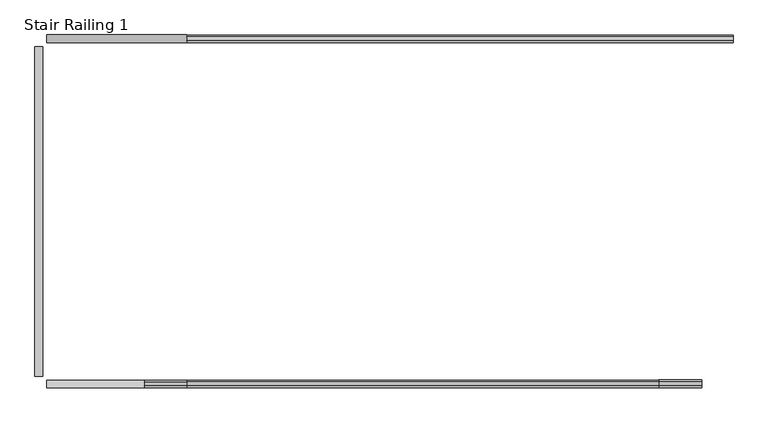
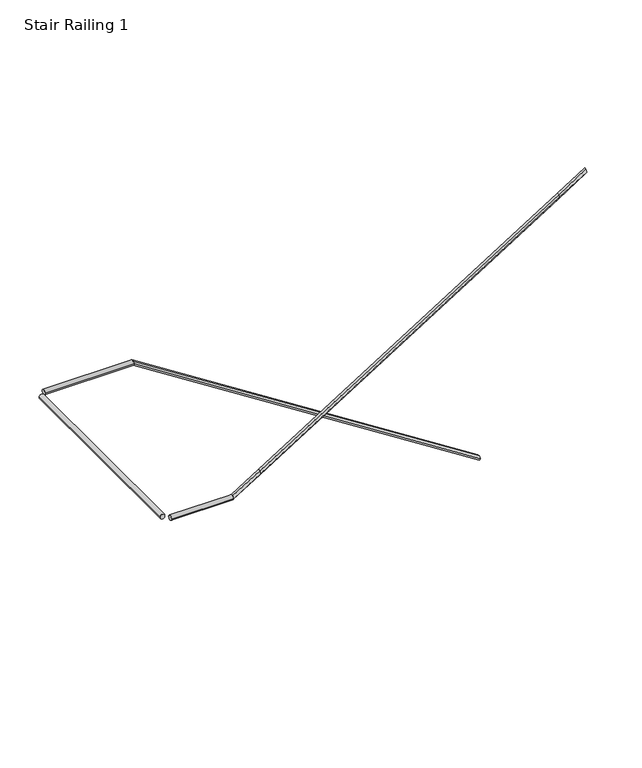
"""IFC4 building model written with IfcOpenShell, lengths in millimetres: railing geometry, Stair Railing 1."""

from ifc_helpers import new_model, si_unit, frame, origin, place, context, project, spatial, circle_curve, faceted_brep, source, transform, mapped, element, save
from ifc_brep_helpers import plane_surface, cylinder_surface, advanced_brep


def stair_railing_1_d57b5f3b(model_context):
    return source(origin(), model_context, "Body", "SolidModel", [
        faceted_brep([(46975.6613811, 47258.2865351, 13752.6888889), (46975.6613811, 47245.5865351, 13730.6918436), (46975.6613811, 47220.1865351, 13730.6918436), (46975.6613811, 47207.4865351, 13752.6888889), (46975.6613811, 47220.1865351, 13774.6859341), (46975.6613811, 47245.5865351, 13774.6859341), (50534.1355635, 47258.2865351, 11477.9777778), (50534.1355635, 47245.5865351, 11499.974823), (50534.1355635, 47220.1865351, 11499.974823), (50534.1355635, 47207.4865351, 11477.9777778), (50534.1355635, 47220.1865351, 11455.9807325), (50534.1355635, 47245.5865351, 11455.9807325)], [[[0, 1, 2, 3, 4, 5]], [[6, 7, 8, 9, 10, 11]], [[1, 0, 6, 11]], [[2, 1, 11, 10]], [[3, 2, 10, 9]], [[4, 3, 9, 8]], [[5, 4, 8, 7]], [[0, 5, 7, 6]]]),
        advanced_brep(
        [(46061.2613811, 47258.2865351, 13752.6888889), (46061.2613811, 47207.4865351, 13752.6888889), (46975.6613811, 47258.2865351, 13752.6888889), (46975.6613811, 47207.4865351, 13752.6888889)],
        [
            (0, 1, circle_curve(frame((46061.2613811, 47232.8865351, 13752.6888889), z_axis=(-1.0, 0.0, 0.0), x_axis=(0.0, 1.0, 0.0)), 25.4)),
            (1, 0, circle_curve(frame((46061.2613811, 47232.8865351, 13752.6888889), z_axis=(-1.0, 0.0, 0.0), x_axis=(0.0, 1.0, 0.0)), 25.4)),
            (2, 3, circle_curve(frame((46975.6613811, 47232.8865351, 13752.6888889), z_axis=(1.0, 0.0, 0.0), x_axis=(0.0, 1.0, 0.0)), 25.4)),
            (3, 2, circle_curve(frame((46975.6613811, 47232.8865351, 13752.6888889), z_axis=(1.0, 0.0, 0.0), x_axis=(0.0, 1.0, 0.0)), 25.4)),
            (0, 2),
            (3, 1),
        ],
        [
            plane_surface(frame((46061.2613811, 47258.2865351, 13727.2888889), z_axis=(-1.0, 0.0, 0.0), x_axis=(0.0, -1.0, 0.0))),
            plane_surface(frame((46975.6613811, 47258.2865351, 13727.2888889), z_axis=(1.0, 0.0, 0.0), x_axis=(0.0, 1.0, 0.0))),
            cylinder_surface(frame((46975.6613811, 47232.8865351, 13752.6888889), z_axis=(-1.0, 0.0, 0.0), x_axis=(0.0, 1.0, 0.0)), 25.4),
        ],
        [
            (0, [[1, 2]]),
            (1, [[3, 4]]),
            (2, [[-1, 5, -4, 6]]),
            (2, [[-2, -6, -3, -5]]),
        ],
    ),
        advanced_brep(
        [(45985.0613811, 45032.0030566, 13752.6888889), (46035.8613811, 45032.0030566, 13752.6888889), (45985.0613811, 47182.0865351, 13752.6888889), (46035.8613811, 47182.0865351, 13752.6888889)],
        [
            (0, 1, circle_curve(frame((46010.4613811, 45032.0030566, 13752.6888889), z_axis=(0.0, -1.0, 0.0), x_axis=(-1.0, 0.0, 0.0)), 25.4)),
            (1, 0, circle_curve(frame((46010.4613811, 45032.0030566, 13752.6888889), z_axis=(0.0, -1.0, 0.0), x_axis=(-1.0, 0.0, 0.0)), 25.4)),
            (2, 3, circle_curve(frame((46010.4613811, 47182.0865351, 13752.6888889), z_axis=(0.0, 1.0, 0.0), x_axis=(-1.0, 0.0, 0.0)), 25.4)),
            (3, 2, circle_curve(frame((46010.4613811, 47182.0865351, 13752.6888889), z_axis=(0.0, 1.0, 0.0), x_axis=(-1.0, 0.0, 0.0)), 25.4)),
            (0, 2),
            (3, 1),
        ],
        [
            plane_surface(frame((45985.0613811, 45032.0030566, 13727.2888889), z_axis=(0.0, -1.0, 0.0), x_axis=(0.0, 0.0, -1.0))),
            plane_surface(frame((45985.0613811, 47182.0865351, 13727.2888889), z_axis=(0.0, 1.0, 0.0), x_axis=(0.0, 0.0, 1.0))),
            cylinder_surface(frame((46010.4613811, 47182.0865351, 13752.6888889), z_axis=(0.0, -1.0, 0.0), x_axis=(-1.0, 0.0, 0.0)), 25.4),
        ],
        [
            (0, [[1, 2]]),
            (1, [[3, 4]]),
            (2, [[-1, 5, -4, 6]]),
            (2, [[-2, -6, -3, -5]]),
        ],
    ),
        advanced_brep(
        [(46696.2613811, 44955.8030566, 13752.6888889), (46696.2613811, 45006.6030566, 13752.6888889), (46061.2613811, 44955.8030566, 13752.6888889), (46061.2613811, 45006.6030566, 13752.6888889)],
        [
            (0, 1, circle_curve(frame((46696.2613811, 44981.2030566, 13752.6888889), z_axis=(1.0, 0.0, 0.0), x_axis=(0.0, -1.0, 0.0)), 25.4)),
            (1, 0, circle_curve(frame((46696.2613811, 44981.2030566, 13752.6888889), z_axis=(1.0, 0.0, 0.0), x_axis=(0.0, -1.0, 0.0)), 25.4)),
            (2, 3, circle_curve(frame((46061.2613811, 44981.2030566, 13752.6888889), z_axis=(-1.0, 0.0, 0.0), x_axis=(0.0, -1.0, 0.0)), 25.4)),
            (3, 2, circle_curve(frame((46061.2613811, 44981.2030566, 13752.6888889), z_axis=(-1.0, 0.0, 0.0), x_axis=(0.0, -1.0, 0.0)), 25.4)),
            (0, 2),
            (3, 1),
        ],
        [
            plane_surface(frame((46696.2613811, 44955.8030566, 13727.2888889), z_axis=(1.0, 0.0, 0.0), x_axis=(0.0, 1.0, 0.0))),
            plane_surface(frame((46061.2613811, 44955.8030566, 13727.2888889), z_axis=(-1.0, 0.0, 0.0), x_axis=(0.0, -1.0, 0.0))),
            cylinder_surface(frame((46061.2613811, 44981.2030566, 13752.6888889), z_axis=(1.0, 0.0, 0.0), x_axis=(0.0, -1.0, 0.0)), 25.4),
        ],
        [
            (0, [[1, 2]]),
            (1, [[3, 4]]),
            (2, [[-1, 5, -4, 6]]),
            (2, [[-2, -6, -3, -5]]),
        ],
    ),
        faceted_brep([(46975.6613811, 44955.8030566, 13927.6666667), (46975.6613811, 44968.5030566, 13905.6696214), (46975.6613811, 44993.9030566, 13905.6696214), (46975.6613811, 45006.6030566, 13927.6666667), (46975.6613811, 44993.9030566, 13949.6637119), (46975.6613811, 44968.5030566, 13949.6637119), (46696.2613811, 44955.8030566, 13752.6888889), (46696.2613811, 44968.5030566, 13774.6859341), (46696.2613811, 44993.9030566, 13774.6859341), (46696.2613811, 45006.6030566, 13752.6888889), (46696.2613811, 44993.9030566, 13730.6918436), (46696.2613811, 44968.5030566, 13730.6918436)], [[[0, 1, 2, 3, 4, 5]], [[6, 7, 8, 9, 10, 11]], [[1, 0, 6, 11]], [[2, 1, 11, 10]], [[3, 2, 10, 9]], [[4, 3, 9, 8]], [[5, 4, 8, 7]], [[0, 5, 7, 6]]]),
        faceted_brep([(50049.0613811, 44955.8030566, 15852.4222222), (50049.0613811, 44968.5030566, 15830.425177), (50049.0613811, 44993.9030566, 15830.425177), (50049.0613811, 45006.6030566, 15852.4222222), (50049.0613811, 44993.9030566, 15874.4192675), (50049.0613811, 44968.5030566, 15874.4192675), (46975.6613811, 44955.8030566, 13927.6666667), (46975.6613811, 44968.5030566, 13949.6637119), (46975.6613811, 44993.9030566, 13949.6637119), (46975.6613811, 45006.6030566, 13927.6666667), (46975.6613811, 44993.9030566, 13905.6696214), (46975.6613811, 44968.5030566, 13905.6696214)], [[[0, 1, 2, 3, 4, 5]], [[6, 7, 8, 9, 10, 11]], [[1, 0, 6, 11]], [[2, 1, 11, 10]], [[3, 2, 10, 9]], [[4, 3, 9, 8]], [[5, 4, 8, 7]], [[0, 5, 7, 6]]]),
        faceted_brep([(50328.4613811, 44955.8030566, 16027.4), (50328.4613811, 44968.5030566, 16005.4029547), (50328.4613811, 44993.9030566, 16005.4029547), (50328.4613811, 45006.6030566, 16027.4), (50328.4613811, 44993.9030566, 16049.3970453), (50328.4613811, 44968.5030566, 16049.3970453), (50049.0613811, 44955.8030566, 15852.4222222), (50049.0613811, 44968.5030566, 15874.4192675), (50049.0613811, 44993.9030566, 15874.4192675), (50049.0613811, 45006.6030566, 15852.4222222), (50049.0613811, 44993.9030566, 15830.425177), (50049.0613811, 44968.5030566, 15830.425177)], [[[0, 1, 2, 3, 4, 5]], [[6, 7, 8, 9, 10, 11]], [[1, 0, 6, 11]], [[2, 1, 11, 10]], [[3, 2, 10, 9]], [[4, 3, 9, 8]], [[5, 4, 8, 7]], [[0, 5, 7, 6]]]),
    ])


if __name__ == "__main__":
    model = new_model("IFC4")
    model_context = context("Model", 3, world=origin())
    ifc_project = project(units=[si_unit("LENGTHUNIT", "METRE", prefix="MILLI")], contexts=[model_context])
    site = spatial("IfcSite", under=ifc_project)
    building = spatial("IfcBuilding", under=site)
    placement = place(None, origin())
    stair_railing_1_shape = stair_railing_1_d57b5f3b(model_context)
    element("IfcRailing", 1, ObjectType="Stair Railing 1", at=placement, inside=building, context=model_context, shape_type="MappedRepresentation", body=[
        mapped(stair_railing_1_shape, transform((0.0, 0.0, 0.0), x_axis=(1.0, 0.0, 0.0), y_axis=(0.0, 1.0, 0.0), z_axis=(0.0, 0.0, 1.0))),
    ])
    save(model, "model.ifc")
